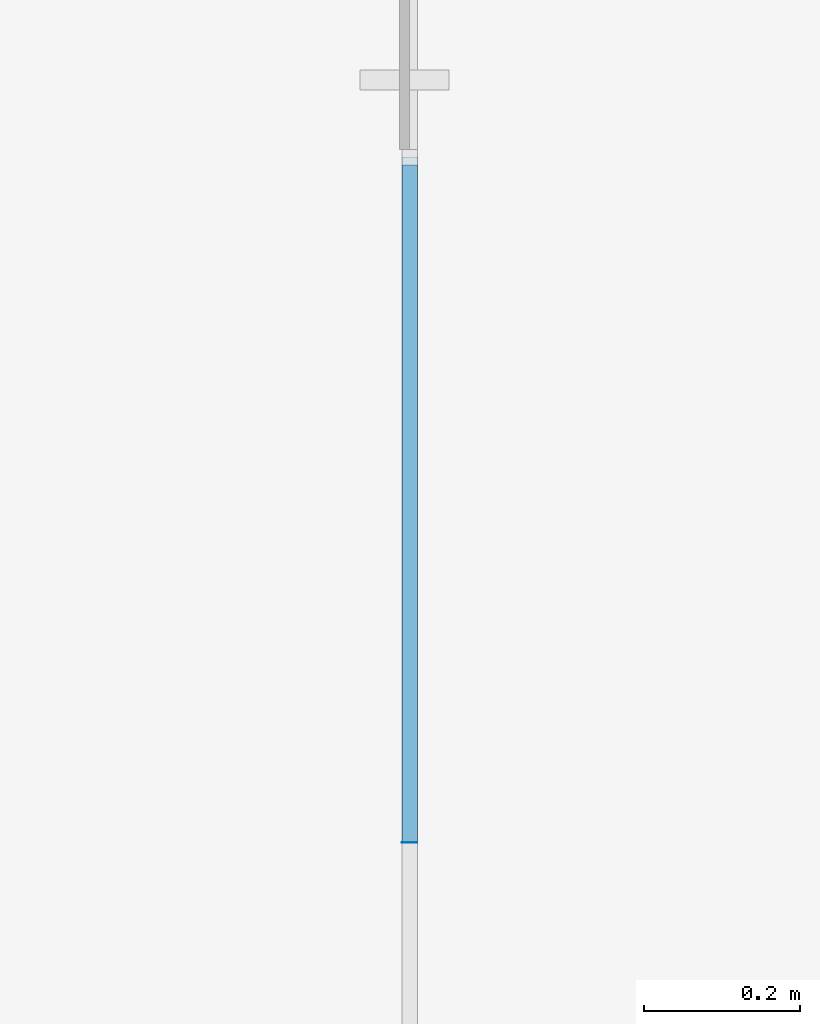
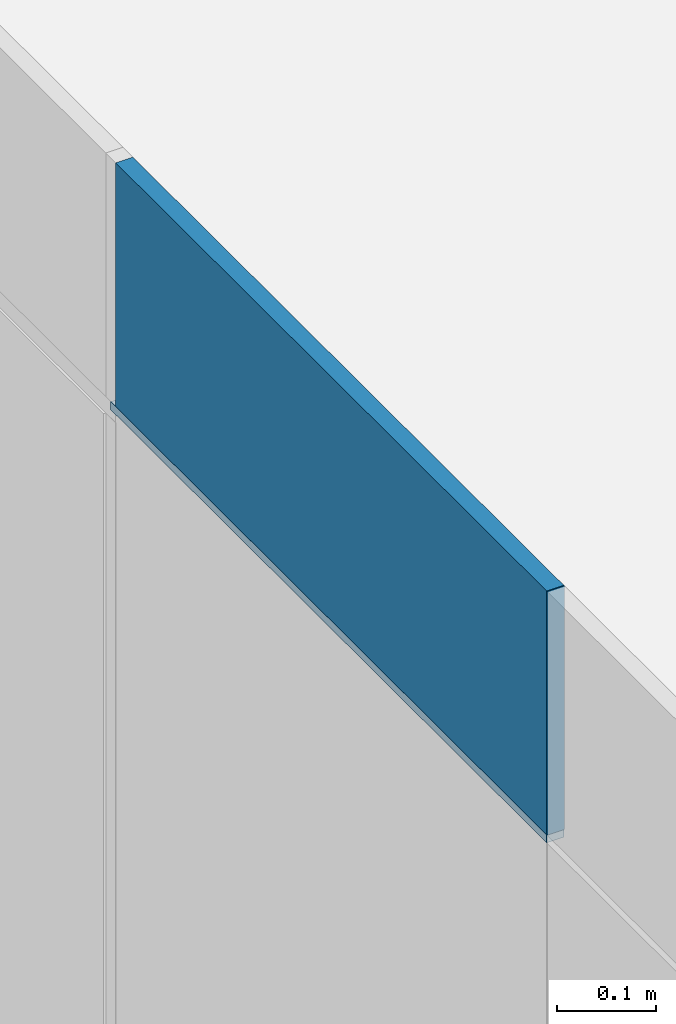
# One storey, part 35 of 66: 3 plates, 1 element without a shape of its own.
"""IFC2X3 building model written with IfcOpenShell, lengths in millimetres."""

from ifc_helpers import new_model, entity, si_unit, converted_unit, derived_unit, direction, frame, origin, origin_2d_with_axis, place, context, subcontext, project, spatial, rectangle, extrude, source, transform, mapped, material, layer, layer_set, layer_usage, type_object, type_shapes, element, aggregate, save


model = new_model("IFC2X3")

# Units and contexts
model_context = context("Model", 3, precision=0.01, world=origin(), true_north=direction((6.12303176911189e-17, 1.0)))
body_context = subcontext(model_context, "Body", "Model", "MODEL_VIEW")
ifc_project = project(units=[si_unit("LENGTHUNIT", "METRE", prefix="MILLI"), si_unit("AREAUNIT", "SQUARE_METRE"), si_unit("VOLUMEUNIT", "CUBIC_METRE"), converted_unit("PLANEANGLEUNIT", "DEGREE", entity("IfcRatioMeasure", 0.0174532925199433), si_unit("PLANEANGLEUNIT", "RADIAN"), dimensions=[0, 0, 0, 0, 0, 0, 0]), si_unit("MASSUNIT", "GRAM", prefix="KILO"), derived_unit("MASSDENSITYUNIT", [(si_unit("MASSUNIT", "GRAM", prefix="KILO"), 1), (si_unit("LENGTHUNIT", "METRE"), -3)]), si_unit("TIMEUNIT", "SECOND"), si_unit("FREQUENCYUNIT", "HERTZ"), si_unit("THERMODYNAMICTEMPERATUREUNIT", "DEGREE_CELSIUS"), derived_unit("THERMALTRANSMITTANCEUNIT", [(si_unit("MASSUNIT", "GRAM", prefix="KILO"), 1), (si_unit("THERMODYNAMICTEMPERATUREUNIT", "KELVIN"), -1), (si_unit("TIMEUNIT", "SECOND"), -3)]), derived_unit("VOLUMETRICFLOWRATEUNIT", [(si_unit("LENGTHUNIT", "METRE"), 3), (si_unit("TIMEUNIT", "SECOND"), -1)]), si_unit("ELECTRICCURRENTUNIT", "AMPERE"), si_unit("ELECTRICVOLTAGEUNIT", "VOLT"), si_unit("POWERUNIT", "WATT"), si_unit("FORCEUNIT", "NEWTON", prefix="KILO"), si_unit("ILLUMINANCEUNIT", "LUX"), si_unit("LUMINOUSFLUXUNIT", "LUMEN"), si_unit("LUMINOUSINTENSITYUNIT", "CANDELA"), derived_unit("USERDEFINED", [(si_unit("MASSUNIT", "GRAM", prefix="KILO"), -1), (si_unit("LENGTHUNIT", "METRE"), -2), (si_unit("TIMEUNIT", "SECOND"), 3), (si_unit("LUMINOUSFLUXUNIT", "LUMEN"), 1)]), derived_unit("LINEARVELOCITYUNIT", [(si_unit("LENGTHUNIT", "METRE"), 1), (si_unit("TIMEUNIT", "SECOND"), -1)]), si_unit("PRESSUREUNIT", "PASCAL"), derived_unit("USERDEFINED", [(si_unit("LENGTHUNIT", "METRE"), -2), (si_unit("MASSUNIT", "GRAM", prefix="KILO"), 1), (si_unit("TIMEUNIT", "SECOND"), -2)])], contexts=[model_context])

# Site, building, storey
site_placement = place(None, frame((-151.875543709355, 2715.0, 0.0)))
site = spatial("IfcSite", under=ifc_project, at=site_placement, Name="Surface", CompositionType="ELEMENT")
building_placement = place(site_placement, origin())
building = spatial("IfcBuilding", under=site, at=building_placement, CompositionType="ELEMENT")
storey_placement = place(building_placement, frame((0.0, 0.0, 3350.0)))
storey = spatial("IfcBuildingStorey", under=building, at=storey_placement, Name="2 korrus", CompositionType="ELEMENT", Elevation=3350.00000000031)

# Curtain wall, plates
curtain_wall_type = type_object("IfcCurtainWallType", Name="Curtain Wall:Klaassein KLS-05", PredefinedType="NOTDEFINED")
curtain_wall_placement = place(storey_placement, frame((0.0, 0.0, -3350.0)))
curtain_wall = element("IfcCurtainWall", 1, at=curtain_wall_placement, inside=storey, type_object=curtain_wall_type, Name="Curtain Wall:Klaassein KLS-05", ObjectType="Curtain Wall:Klaassein KLS-05")
ifc_material = material(Name="<Unnamed>")
ifc_layer = layer(ifc_material, 20.0)
ifc_layer_set = layer_set([ifc_layer], Name="Curtain Wall:Klaassein KLS-01")
ifc_layer_usage_1 = layer_usage(ifc_layer_set, "AXIS3", "POSITIVE", 0.0)
plate_type_1 = type_object("IfcPlateType", Name="Glazed", PredefinedType="CURTAIN_PANEL", material=ifc_layer_set)
shared_shape_1 = source(origin(), body_context, "Body", "SweptSolid", [
    extrude(rectangle(XDim=20.0, YDim=879.080118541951, at=origin_2d_with_axis()), frame((0.0, 0.0, 0.0), z_axis=(0.0, 0.0, 1.0), x_axis=(0.0, 1.0, 0.0)), (0.0, 0.0, 1.0), 9.99999999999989),
])
type_shapes(plate_type_1, [shared_shape_1])
plate_1_placement = place(curtain_wall_placement, frame((27053.2859998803, 7544.45994072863, 5440.0), z_axis=(0.0, 0.0, 1.0), x_axis=(0.0, 1.0, 0.0)))
plate_1 = element("IfcPlate", 2, at=plate_1_placement, type_object=plate_type_1, material=ifc_layer_usage_1, Name="System Panel:Glazed", ObjectType="Glazed", context=body_context, shape_type="MappedRepresentation", body=[
    mapped(shared_shape_1, transform((0.0, 0.0, 0.0), scale=1.0)),
])
ifc_layer_usage_2 = layer_usage(ifc_layer_set, "AXIS3", "POSITIVE", 0.0)
plate_type_2 = type_object("IfcPlateType", Name="Glazed", PredefinedType="CURTAIN_PANEL", material=ifc_layer_set)
shared_shape_2 = source(origin(), body_context, "Body", "SweptSolid", [
    extrude(rectangle(XDim=20.0, YDim=0.999999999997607, at=origin_2d_with_axis()), frame((0.0, 0.0, 0.0), z_axis=(0.0, 0.0, 1.0), x_axis=(0.0, 1.0, 0.0)), (0.0, 0.0, 1.0), 299.999999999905),
])
type_shapes(plate_type_2, [shared_shape_2])
plate_2_placement = place(curtain_wall_placement, frame((27053.2859998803, 7104.41988145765, 5450.0), z_axis=(0.0, 0.0, 1.0), x_axis=(0.0, 1.0, 0.0)))
plate_2 = element("IfcPlate", 3, at=plate_2_placement, type_object=plate_type_2, material=ifc_layer_usage_2, Name="System Panel:Glazed", ObjectType="Glazed", context=body_context, shape_type="MappedRepresentation", body=[
    mapped(shared_shape_2, transform((0.0, 0.0, 0.0), scale=1.0)),
])
ifc_layer_usage_3 = layer_usage(ifc_layer_set, "AXIS3", "POSITIVE", 0.0)
plate_type_3 = type_object("IfcPlateType", Name="Glazed", PredefinedType="CURTAIN_PANEL", material=ifc_layer_set)
shared_shape_3 = source(origin(), body_context, "Body", "SweptSolid", [
    extrude(rectangle(XDim=20.0, YDim=869.080118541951, at=origin_2d_with_axis()), frame((0.0, 0.0, 0.0), z_axis=(0.0, 0.0, 1.0), x_axis=(0.0, 1.0, 0.0)), (0.0, 0.0, 1.0), 299.999999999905),
])
type_shapes(plate_type_3, [shared_shape_3])
plate_3_placement = place(curtain_wall_placement, frame((27053.2859998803, 7539.45994072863, 5450.0), z_axis=(0.0, 0.0, 1.0), x_axis=(0.0, 1.0, 0.0)))
plate_3 = element("IfcPlate", 4, at=plate_3_placement, type_object=plate_type_3, material=ifc_layer_usage_3, Name="System Panel:Glazed", ObjectType="Glazed", context=body_context, shape_type="MappedRepresentation", body=[
    mapped(shared_shape_3, transform((0.0, 0.0, 0.0), scale=1.0)),
])
aggregate(curtain_wall, [plate_1, plate_2, plate_3])

save(model, "model.ifc")
